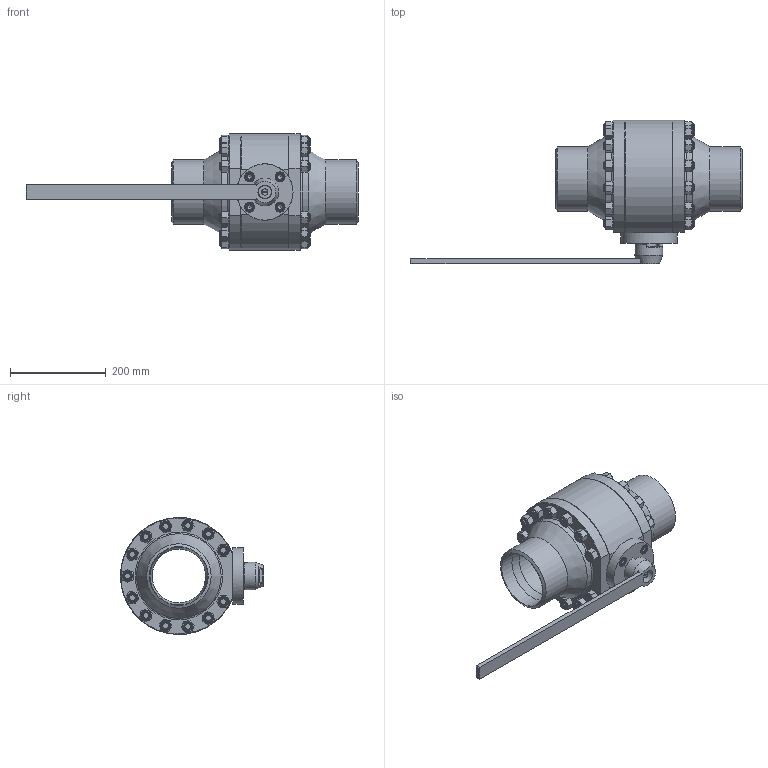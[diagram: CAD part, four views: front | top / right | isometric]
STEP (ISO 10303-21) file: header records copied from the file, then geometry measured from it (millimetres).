
FILE_DESCRIPTION(('STEP AP203'), '1');
FILE_NAME('ZARD 125.016.40.P.stp', '2013-12-06T13:01:18', ('1'), ('1'), 'ASCON STEP Converter 1.3', 'Kompas 3D', '');
FILE_SCHEMA(('CONFIG_CONTROL_DESIGN','SUPPORT_RESOURCE_SCHEMA'));
Length unit declared in the file: millimetre
Products named in the file (1): 31
Bounding box: 695 x 300 x 244.91 mm (x, y, z)
Volume: 6288681.2 mm3; surface area: 810775.5 mm2
Topology: 1 solids, 19 shells, 681 faces, 1551 edges, 976 vertices
Faces by surface type: plane 392, cone 169, cylinder 118, torus 2
Full cylindrical faces by diameter (mm): 8 x3, 9 x1, 10 x4, 10.106 x4, 12 x4, 13 x5, 16 x39, 18 x17, 21 x4, 23.4 x1, 27 x1, 29 x1, 29.8 x1, 30 x1, 40 x1, 40.5 x1, 50 x1, 58 x1, 112 x2, 118 x1, 121 x2, 135 x2, 175 x1, 177 x2
Entity records: 32749 total; most frequent: CARTESIAN_POINT 17597, ORIENTED_EDGE 3094, DIRECTION 3071, EDGE_CURVE 1547, AXIS2_PLACEMENT_3D 1221, VERTEX_POINT 976, EDGE_LOOP 801, ADVANCED_FACE 681
